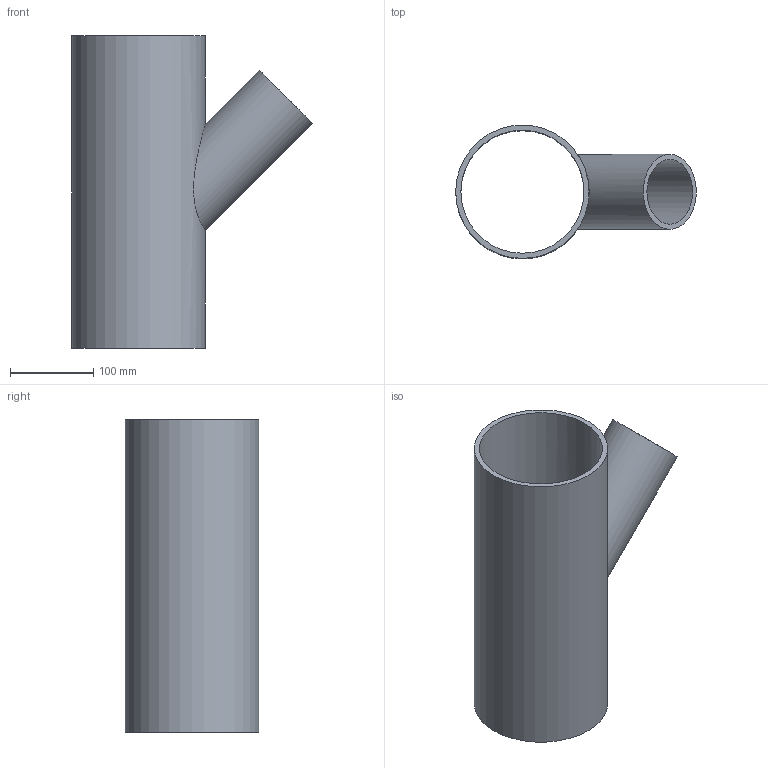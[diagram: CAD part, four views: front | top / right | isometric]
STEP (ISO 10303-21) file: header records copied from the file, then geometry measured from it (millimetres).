
FILE_DESCRIPTION(/* description */ (''),/* implementation_level */ '2;1');
FILE_NAME(/* name */ 'C:\Planerdaten\Export PLA\PRO_101557\stp\369130.stp',/* time_stamp */ '2021-09-30T15:07:52+02:00',/* author */ ('JANAN'),/* organization */ (''),/* preprocessor_version */ 'ST-DEVELOPER v16.13',/* originating_system */ 'Autodesk Inventor 2018',/* authorisation */ '');
FILE_SCHEMA (('AUTOMOTIVE_DESIGN { 1 0 10303 214 3 1 1 }'));
Length unit declared in the file: millimetre
Products named in the file (1): tmp1C4.tmp
Bounding box: 288.6 x 160 x 375 mm (x, y, z)
Volume: 1317233.9 mm3; surface area: 432408.3 mm2
Topology: 1 solids, 1 shells, 7 faces, 17 edges, 12 vertices
Faces by surface type: cylinder 4, plane 3
Full cylindrical faces by diameter (mm): 77.6 x1, 90 x1, 147.6 x1, 160 x1
Entity records: 336 total; most frequent: CARTESIAN_POINT 158, DIRECTION 28, EDGE_LOOP 16, ORIENTED_EDGE 16, AXIS2_PLACEMENT_3D 14, FACE_BOUND 9, VERTEX_POINT 8, EDGE_CURVE 8
